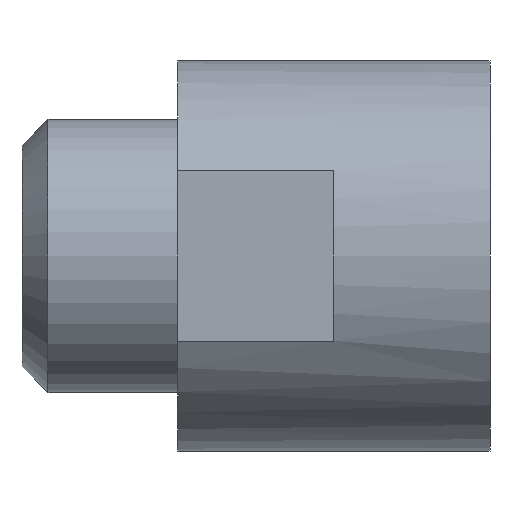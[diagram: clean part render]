
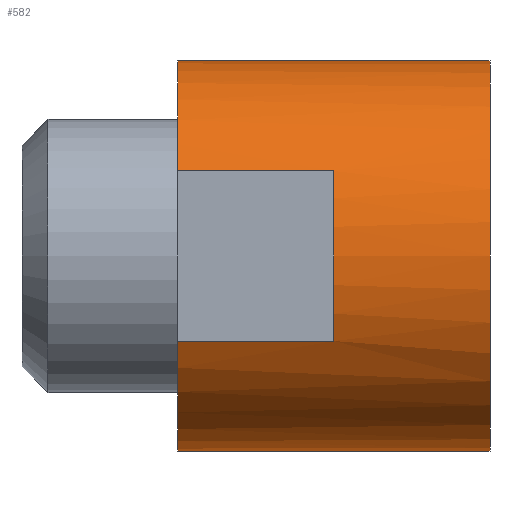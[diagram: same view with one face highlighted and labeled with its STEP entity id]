
A CAD part, front view. The second image highlights one B-rep face of the part: STEP entity #582.
In plain terms, the highlighted cylindrical face has radius 15.875 mm (diameter 31.75 mm), a partial arc.
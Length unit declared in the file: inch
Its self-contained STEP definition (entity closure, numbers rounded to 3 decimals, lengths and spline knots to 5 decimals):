
#13 = CARTESIAN_POINT ( 'NONE',  ( -1.63599, -0.5625, -0.27243 ) ) ;
#38 = CARTESIAN_POINT ( 'NONE',  ( 0., 0., 0. ) ) ;
#39 = DIRECTION ( 'NONE',  ( -1., 0., 0. ) ) ;
#40 = DIRECTION ( 'NONE',  ( 0., 0., 1. ) ) ;
#85 = EDGE_CURVE ( 'NONE', #270, #358, #282, .T. ) ;
#87 = AXIS2_PLACEMENT_3D ( 'NONE', #38, #39, #40 ) ;
#92 = AXIS2_PLACEMENT_3D ( 'NONE', #523, #474, #475 ) ;
#95 = EDGE_CURVE ( 'NONE', #360, #335, #280, .T. ) ;
#96 = AXIS2_PLACEMENT_3D ( 'NONE', #454, #455, #456 ) ;
#97 = AXIS2_PLACEMENT_3D ( 'NONE', #482, #483, #484 ) ;
#115 = AXIS2_PLACEMENT_3D ( 'NONE', #418, #419, #421 ) ;
#125 = EDGE_CURVE ( 'NONE', #327, #246, #389, .T. ) ;
#136 = EDGE_CURVE ( 'NONE', #246, #245, #289, .T. ) ;
#143 = EDGE_CURVE ( 'NONE', #270, #245, #279, .T. ) ;
#146 = EDGE_CURVE ( 'NONE', #358, #360, #352, .T. ) ;
#147 = EDGE_CURVE ( 'NONE', #327, #263, #225, .T. ) ;
#150 = EDGE_CURVE ( 'NONE', #263, #335, #249, .T. ) ;
#156 = CARTESIAN_POINT ( 'NONE',  ( -1.63599, -0.5625, 0.27243 ) ) ;
#162 = DIRECTION ( 'NONE',  ( 1., 0., 0. ) ) ;
#189 = ORIENTED_EDGE ( 'NONE', *, *, #85, .T. ) ;
#192 = ORIENTED_EDGE ( 'NONE', *, *, #143, .F. ) ;
#197 = ORIENTED_EDGE ( 'NONE', *, *, #95, .T. ) ;
#204 = ORIENTED_EDGE ( 'NONE', *, *, #147, .F. ) ;
#213 = VECTOR ( 'NONE', #477, 39.37008 ) ;
#225 = LINE ( 'NONE', #476, #213 ) ;
#245 = VERTEX_POINT ( 'NONE', #481 ) ;
#246 = VERTEX_POINT ( 'NONE', #464 ) ;
#249 = CIRCLE ( 'NONE', #96, 0.625 ) ;
#251 = FACE_OUTER_BOUND ( 'NONE', #255, .T. ) ;
#255 = EDGE_LOOP ( 'NONE', ( #204, #278, #307, #192, #189, #365, #197, #295 ) ) ;
#263 = VERTEX_POINT ( 'NONE', #462 ) ;
#270 = VERTEX_POINT ( 'NONE', #465 ) ;
#278 = ORIENTED_EDGE ( 'NONE', *, *, #125, .T. ) ;
#279 = CIRCLE ( 'NONE', #92, 0.625 ) ;
#280 = LINE ( 'NONE', #13, #288 ) ;
#282 = LINE ( 'NONE', #156, #373 ) ;
#288 = VECTOR ( 'NONE', #565, 39.37008 ) ;
#289 = LINE ( 'NONE', #524, #386 ) ;
#295 = ORIENTED_EDGE ( 'NONE', *, *, #150, .F. ) ;
#307 = ORIENTED_EDGE ( 'NONE', *, *, #136, .T. ) ;
#327 = VERTEX_POINT ( 'NONE', #490 ) ;
#335 = VERTEX_POINT ( 'NONE', #489 ) ;
#352 = CIRCLE ( 'NONE', #97, 0.625 ) ;
#358 = VERTEX_POINT ( 'NONE', #496 ) ;
#360 = VERTEX_POINT ( 'NONE', #494 ) ;
#365 = ORIENTED_EDGE ( 'NONE', *, *, #146, .T. ) ;
#373 = VECTOR ( 'NONE', #162, 39.37008 ) ;
#383 = CYLINDRICAL_SURFACE ( 'NONE', #115, 0.625 ) ;
#386 = VECTOR ( 'NONE', #403, 39.37008 ) ;
#389 = CIRCLE ( 'NONE', #87, 0.625 ) ;
#403 = DIRECTION ( 'NONE',  ( -1., 0., 0. ) ) ;
#418 = CARTESIAN_POINT ( 'NONE',  ( -1.63599, 0., 0. ) ) ;
#419 = DIRECTION ( 'NONE',  ( -1., 0., 0. ) ) ;
#421 = DIRECTION ( 'NONE',  ( 0., 0., 1. ) ) ;
#454 = CARTESIAN_POINT ( 'NONE',  ( -1., 0., 0. ) ) ;
#455 = DIRECTION ( 'NONE',  ( -1., 0., 0. ) ) ;
#456 = DIRECTION ( 'NONE',  ( 0., 0., 1. ) ) ;
#462 = CARTESIAN_POINT ( 'NONE',  ( -1., 0., -0.625 ) ) ;
#464 = CARTESIAN_POINT ( 'NONE',  ( 0., 0., 0.625 ) ) ;
#465 = CARTESIAN_POINT ( 'NONE',  ( -1., -0.5625, 0.27243 ) ) ;
#474 = DIRECTION ( 'NONE',  ( -1., 0., 0. ) ) ;
#475 = DIRECTION ( 'NONE',  ( 0., 0., 1. ) ) ;
#476 = CARTESIAN_POINT ( 'NONE',  ( -1.63599, 0., -0.625 ) ) ;
#477 = DIRECTION ( 'NONE',  ( -1., 0., 0. ) ) ;
#481 = CARTESIAN_POINT ( 'NONE',  ( -1., 0., 0.625 ) ) ;
#482 = CARTESIAN_POINT ( 'NONE',  ( -0.5, 0., 0. ) ) ;
#483 = DIRECTION ( 'NONE',  ( 1., 0., 0. ) ) ;
#484 = DIRECTION ( 'NONE',  ( 0., 0., 1. ) ) ;
#489 = CARTESIAN_POINT ( 'NONE',  ( -1., -0.5625, -0.27243 ) ) ;
#490 = CARTESIAN_POINT ( 'NONE',  ( 0., 0., -0.625 ) ) ;
#494 = CARTESIAN_POINT ( 'NONE',  ( -0.5, -0.5625, -0.27243 ) ) ;
#496 = CARTESIAN_POINT ( 'NONE',  ( -0.5, -0.5625, 0.27243 ) ) ;
#523 = CARTESIAN_POINT ( 'NONE',  ( -1., 0., 0. ) ) ;
#524 = CARTESIAN_POINT ( 'NONE',  ( -1.63599, 0., 0.625 ) ) ;
#565 = DIRECTION ( 'NONE',  ( -1., 0., 0. ) ) ;
#582 = ADVANCED_FACE ( 'NONE', ( #251 ), #383, .T. ) ;
